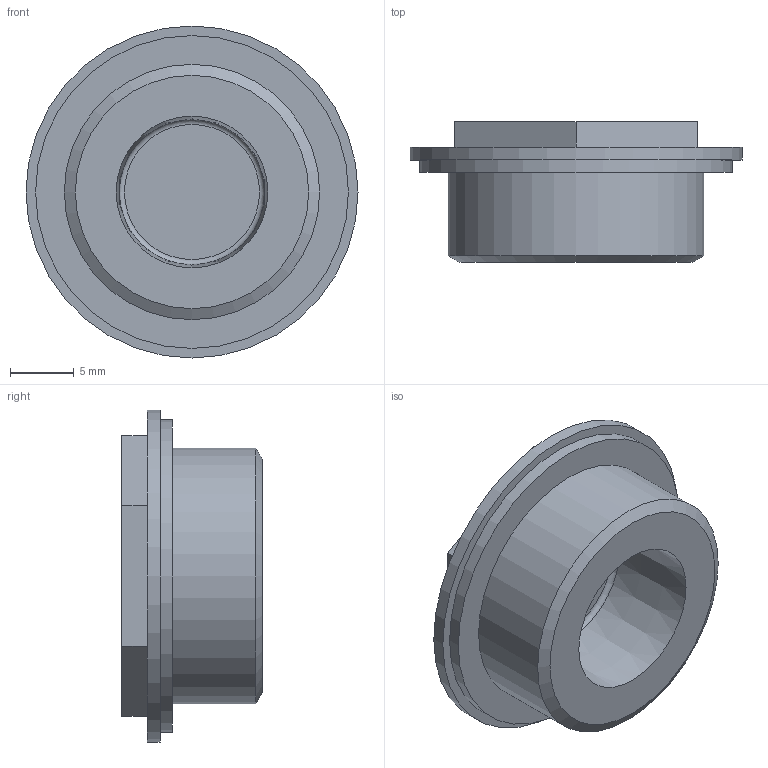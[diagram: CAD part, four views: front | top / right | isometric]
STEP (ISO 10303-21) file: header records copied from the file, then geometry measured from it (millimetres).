
FILE_DESCRIPTION( ( 'STEP AP203' ), '1' );
FILE_NAME( 'C:/Temp/Ganter_Step_05_03_2020/data/3_5/tlt/Oil Level Sight Glass TLT-M20x1,5.stp', '2020-03-12T13:43:32', ( 'License CC BY-ND 4.0' ), ( 'CADENAS' ), ' ', 'PARTsolutions', ' ' );
FILE_SCHEMA( ( 'CONFIG_CONTROL_DESIGN' ) );
Length unit declared in the file: millimetre
Products named in the file (1): _Oil Level Sight Glass TLT-M20x1,5
Bounding box: 26 x 11 x 26 mm (x, y, z)
Volume: 2773.5 mm3; surface area: 2055.7 mm2
Topology: 1 solids, 1 shells, 22 faces, 41 edges, 27 vertices
Faces by surface type: plane 14, cylinder 4, cone 3, torus 1
Full cylindrical faces by diameter (mm): 2.499 x1, 20 x1, 24.5 x1, 26 x1
Entity records: 546 total; most frequent: DIRECTION 92, CARTESIAN_POINT 81, ORIENTED_EDGE 64, AXIS2_PLACEMENT_3D 37, EDGE_LOOP 36, EDGE_CURVE 32, FACE_OUTER_BOUND 27, VERTEX_POINT 26
